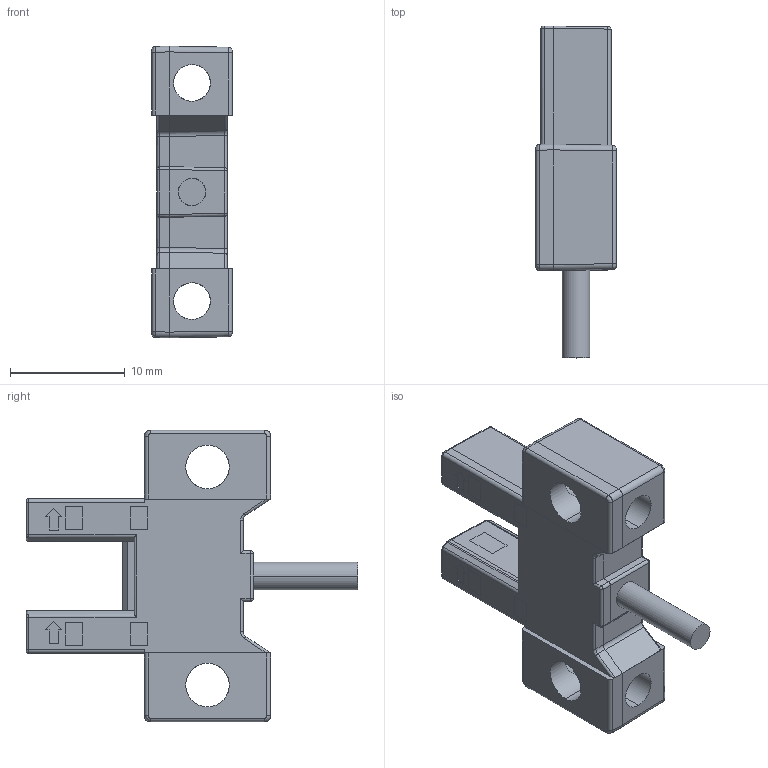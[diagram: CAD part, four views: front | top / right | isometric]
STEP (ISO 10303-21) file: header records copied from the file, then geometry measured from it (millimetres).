
FILE_DESCRIPTION((''),'2;1');
FILE_NAME('013_K45_ASM_HSG_ASM','2024-05-30T10:06:38',('PC'),(''),'CREO PARAMETRIC BY PTC INC, 2020033','CREO PARAMETRIC BY PTC INC, 2020033','');
FILE_SCHEMA(('CONFIG_CONTROL_DESIGN','SHAPE_APPEARANCE_LAYERS_GROUPS'));
Length unit declared in the file: millimetre
Products named in the file (4): 014_K45_CASE; 012_T45_INSIDE; 013_WIRE; 013_K45_ASM_HSG_ASM
Assembly tree (3 placements, depth 2):
  013_K45_ASM_HSG_ASM
    014_K45_CASE
    012_T45_INSIDE
    013_WIRE
Bounding box: 7 x 28.9 x 25.4 mm (x, y, z)
Volume: 1768 mm3; surface area: 3011.8 mm2
Topology: 9 solids, 9 shells, 635 faces, 1722 edges, 1102 vertices
Faces by surface type: plane 397, cylinder 182, bspline 52, cone 4
Entity records: 29843 total; most frequent: CARTESIAN_POINT 6734, ORIENTED_EDGE 3444, DIRECTION 3054, PRESENTATION_STYLE_ASSIGNMENT 1995, STYLED_ITEM 1987, CURVE_STYLE 1722, EDGE_CURVE 1722, VECTOR 1260
